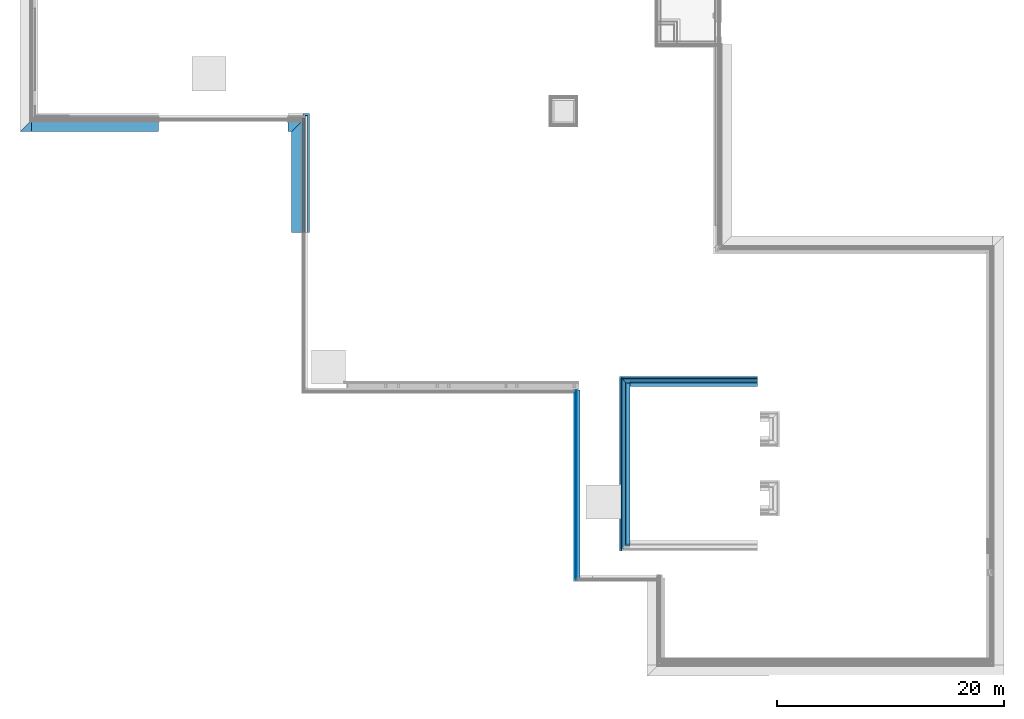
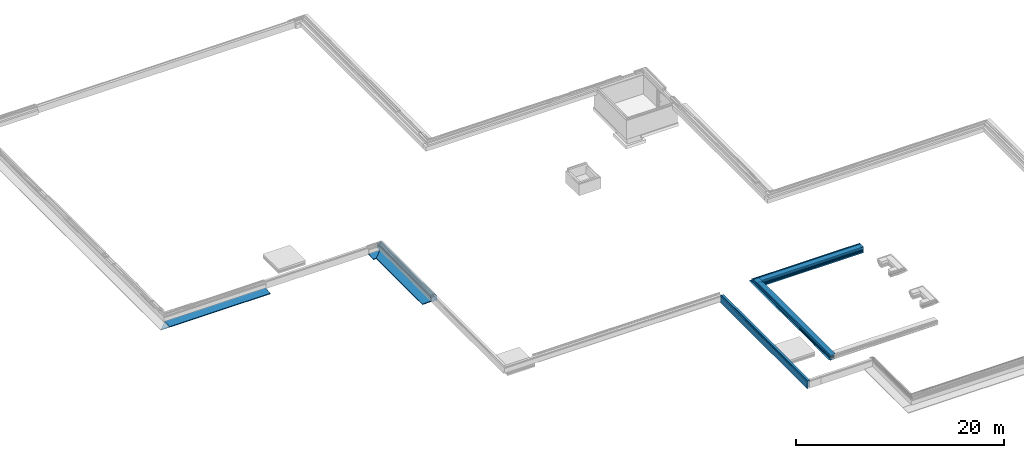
# One storey, part 3 of 17: 30 building element parts, 6 elements without a shape of their own.
"""IFC2X3 building model written with IfcOpenShell, lengths in millimetres."""

from ifc_helpers import new_model, entity, si_unit, converted_unit, derived_unit, money_unit, direction, frame, origin_with_axes, place, context, subcontext, project, spatial, faceted_brep, material, type_object, element, aggregate, save


model = new_model("IFC2X3")

# Units and contexts
model_context = context("Model", 3, precision=0.01, world=origin_with_axes(), true_north=direction((0.0, 1.0)))
body_context = subcontext(model_context, "Body", "Model", "MODEL_VIEW")
ifc_project = project(units=[si_unit("LENGTHUNIT", "METRE", prefix="MILLI"), si_unit("AREAUNIT", "SQUARE_METRE"), si_unit("VOLUMEUNIT", "CUBIC_METRE"), converted_unit("PLANEANGLEUNIT", "DEGREE", entity("IfcPlaneAngleMeasure", 0.0174532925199), si_unit("PLANEANGLEUNIT", "RADIAN"), dimensions=[0, 0, 0, 0, 0, 0, 0]), money_unit("EUR"), converted_unit("TIMEUNIT", "Year", entity("IfcTimeMeasure", 31556926.0), si_unit("TIMEUNIT", "SECOND"), dimensions=[0, 0, 1, 0, 0, 0, 0]), si_unit("MASSUNIT", "GRAM", prefix="KILO"), si_unit("THERMODYNAMICTEMPERATUREUNIT", "DEGREE_CELSIUS"), si_unit("LUMINOUSINTENSITYUNIT", "LUMEN"), si_unit("ENERGYUNIT", "JOULE", prefix="MEGA"), derived_unit("THERMALCONDUCTANCEUNIT", [(si_unit("POWERUNIT", "WATT"), 1), (si_unit("LENGTHUNIT", "METRE"), -1), (si_unit("THERMODYNAMICTEMPERATUREUNIT", "KELVIN"), -1)]), derived_unit("SPECIFICHEATCAPACITYUNIT", [(si_unit("ENERGYUNIT", "JOULE"), 1), (si_unit("MASSUNIT", "GRAM", prefix="KILO"), -1), (si_unit("THERMODYNAMICTEMPERATUREUNIT", "KELVIN"), -1)]), derived_unit("MASSDENSITYUNIT", [(si_unit("MASSUNIT", "GRAM", prefix="KILO"), 1), (si_unit("VOLUMEUNIT", "CUBIC_METRE"), -1)])], contexts=[model_context])

# Site, building, storey
site_placement = place(None, origin_with_axes())
site = spatial("IfcSite", under=ifc_project, at=site_placement, Name="Kolde pst 67a", CompositionType="ELEMENT")
building_placement = place(site_placement, origin_with_axes())
building = spatial("IfcBuilding", under=site, at=building_placement, Name="Riigigümnaasium", CompositionType="ELEMENT")
storey_placement = place(building_placement, frame((0.0, 0.0, -1500.0), z_axis=(0.0, 0.0, 1.0), x_axis=(1.0, 0.0, 0.0)))
storey = spatial("IfcBuildingStorey", under=building, at=storey_placement, Name="Vundament", CompositionType="ELEMENT", Elevation=-1500.0)

# Wall, building element part
wall_type_1 = type_object("IfcWallType", Name="Lintvundament 1602 x 765", PredefinedType="NOTDEFINED")
wall_1_placement = place(storey_placement, frame((40.0563582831, 48039.9808318, 1479.99999851), z_axis=(0.0, 0.0, 1.0), x_axis=(1.0, 0.0, 0.0)))
wall_1 = element("IfcWall", 1, at=wall_1_placement, inside=storey, type_object=wall_type_1, Name="Vundament")
ifc_material_1 = material(Name="_SOOJUSTUS - vahtpolüstüreenplaadid EPS 120 Perimeeter, survetugevus min 120kPa, veeimavus <2%, soojuserijuhtivus λD<0,036 W/(mK)")
building_element_part_1_placement = place(wall_1_placement, origin_with_axes())
building_element_part_1 = element("IfcBuildingElementPart", 2, at=building_element_part_1_placement, material=ifc_material_1, Name="_SOOJUSTUS - vahtpolüstüreenplaadid EPS 120 Perimeeter, survetugevus min 120kPa, veeimavus <2%, soojuserijuhtivus λD<0,036 W/(mK)", context=body_context, shape_type="Brep", body=[
    faceted_brep([(-143.057441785, -203.057444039, -629.93015656), (11068.5385942, -203.057443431, -629.93015656), (11068.5385942, -203.057443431, -729.999997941), (-143.057441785, -203.057444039, -729.999997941), (-143.057441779, -313.057436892, -633.771447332), (11068.5385942, -313.057436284, -633.771447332), (11068.5385943, -1202.46588098, -664.830269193), (11068.5385943, -1198.97593078, -764.769370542), (-1138.97592908, -1198.97593144, -764.769370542), (-143.057441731, -1200.19010513, -729.999997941), (-143.057441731, -1202.46588159, -664.830279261)], [[[0, 1, 2, 3]], [[0, 4, 5, 1]], [[2, 1, 5, 6, 7]], [[7, 8, 3, 2]], [[0, 3, 9, 10, 4]], [[5, 4, 10, 6]], [[10, 9, 8, 7, 6]], [[3, 8, 9]]]),
])
aggregate(wall_1, [building_element_part_1])

# Wall, building element parts
wall_2_placement = place(storey_placement, frame((24040.0027342, 48039.9808308, 1479.99999851), z_axis=(0.0, 0.0, 1.0), x_axis=(0.0, -1.0, 0.0)))
wall_2 = element("IfcWall", 3, at=wall_2_placement, inside=storey, type_object=wall_type_1, Name="Vundament")
ifc_material_2 = material(Name="_KANDETARIND - monoliitne raudbetoon vastavalt EK osale")
building_element_part_2_placement = place(wall_2_placement, origin_with_axes())
building_element_part_2 = element("IfcBuildingElementPart", 4, at=building_element_part_2_placement, material=ifc_material_2, Name="_KANDETARIND - monoliitne raudbetoon vastavalt EK osale", context=body_context, shape_type="Brep", body=[
    faceted_brep([(-399.942551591, 399.942555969, -749.999992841), (-399.942551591, 399.942555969, -249.999997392), (10089.4842046, 399.942555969, -250.0), (10089.4842046, 399.942555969, -750.0), (-399.942551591, 200.0, -249.999997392), (-399.942551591, -200.057444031, -749.999992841), (-399.942551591, -200.057444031, -249.999997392), (-199.999991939, 200.0, -249.999997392), (10089.4842046, 200.0, -250.0), (10089.4842046, -200.057444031, -750.0), (10089.4842046, 200.0, 0.0), (10089.4842046, 0.0, 0.0), (10089.4842046, 0.0, -250.0), (10089.4842046, -200.057444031, -250.0), (-199.999991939, 0.0, -249.999997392), (-199.999991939, 200.0, 3.32716632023e-07), (-199.999991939, 0.0, 3.32716632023e-07)], [[[0, 1, 2, 3]], [[4, 1, 0, 5, 6]], [[4, 7, 8, 2, 1]], [[9, 3, 2, 8, 10, 11, 12, 13]], [[5, 0, 3, 9]], [[6, 5, 9, 13]], [[4, 6, 13, 12, 14, 7]], [[7, 15, 10, 8]], [[15, 16, 11, 10]], [[16, 14, 12, 11]], [[16, 15, 7, 14]]]),
])
ifc_material_3 = material(Name="_SOOJUSTUS - ekstrudeeritud polüstüreenist plaadid XPS 250, survetugevus min 250kPa, soojuserijuhtivus λD<0,036 W/(mK), veeimavus alla 0,2%, näiteks XPS 250 foam SL või samaväärne")
building_element_part_3_placement = place(wall_2_placement, origin_with_axes())
building_element_part_3 = element("IfcBuildingElementPart", 5, at=building_element_part_3_placement, material=ifc_material_3, Name="_SOOJUSTUS - ekstrudeeritud polüstüreenist plaadid XPS 250, survetugevus min 250kPa, soojuserijuhtivus λD<0,036 W/(mK), veeimavus alla 0,2%, näiteks XPS 250 foam SL või samaväärne", context=body_context, shape_type="Brep", body=[
    faceted_brep([(2.99999775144, -3.00000241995, -2.35946218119e-06), (10089.4842046, -3.00000241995, -3.7612034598e-06), (10089.4842046, -3.00000241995, -146.999999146), (2.99999775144, -3.00000241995, -146.999999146), (2.99999775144, -73.0000017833, -2.35946218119e-06), (10089.4842046, -73.0000017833, -3.76120340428e-06), (10089.4842046, -73.0000017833, -146.999999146), (2.99999775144, -73.0000017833, -146.999999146)], [[[0, 1, 2, 3]], [[0, 4, 5, 1]], [[5, 6, 2, 1]], [[2, 6, 7, 3]], [[4, 0, 3, 7]], [[4, 7, 6, 5]]]),
])
building_element_part_4_placement = place(wall_2_placement, origin_with_axes())
building_element_part_4 = element("IfcBuildingElementPart", 6, at=building_element_part_4_placement, material=ifc_material_1, Name="_SOOJUSTUS - vahtpolüstüreenplaadid EPS 120 Perimeeter, survetugevus min 120kPa, veeimavus <2%, soojuserijuhtivus λD<0,036 W/(mK)", context=body_context, shape_type="Brep", body=[
    faceted_brep([(73.0000016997, -73.0000013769, -3.76120343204e-06), (10089.4842046, -73.0000013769, -2.23078100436e-06), (10089.4842046, -73.0000013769, -146.999999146), (73.0000016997, -73.0000013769, -146.999999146), (73.0000016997, -223.000000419, -3.76120343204e-06), (10089.4842046, -223.000000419, -2.23078100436e-06), (10089.4842046, -223.000000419, -146.999999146), (73.0000016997, -223.000000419, -146.999999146)], [[[0, 1, 2, 3]], [[0, 4, 5, 1]], [[6, 2, 1, 5]], [[3, 2, 6, 7]], [[4, 0, 3, 7]], [[4, 7, 6, 5]]]),
])
building_element_part_5_placement = place(wall_2_placement, origin_with_axes())
building_element_part_5 = element("IfcBuildingElementPart", 7, at=building_element_part_5_placement, material=ifc_material_1, Name="_SOOJUSTUS - vahtpolüstüreenplaadid EPS 120 Perimeeter, survetugevus min 120kPa, veeimavus <2%, soojuserijuhtivus λD<0,036 W/(mK)", context=body_context, shape_type="Brep", body=[
    faceted_brep([(2.99999645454, -3.00000241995, -246.999998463), (2.99999645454, -3.00000241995, -146.999999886), (10089.4842046, -3.00000241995, -146.99999851), (10089.4842046, -3.00000241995, -247.000001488), (2.99999645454, -303.057446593, -146.999999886), (2.99999645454, -303.057446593, -246.999998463), (10089.4842046, -303.057446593, -146.99999851), (10089.4842046, -303.057446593, -247.000001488)], [[[0, 1, 2, 3]], [[4, 1, 0, 5]], [[1, 4, 6, 2]], [[3, 2, 6, 7]], [[5, 0, 3, 7]], [[4, 5, 7, 6]]]),
])
building_element_part_6_placement = place(wall_2_placement, origin_with_axes())
building_element_part_6 = element("IfcBuildingElementPart", 8, at=building_element_part_6_placement, material=ifc_material_1, Name="_SOOJUSTUS - vahtpolüstüreenplaadid EPS 120 Perimeeter, survetugevus min 120kPa, veeimavus <2%, soojuserijuhtivus λD<0,036 W/(mK)", context=body_context, shape_type="Brep", body=[
    faceted_brep([(203.05743529, -203.057444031, -629.93015656), (10089.4842046, -203.057444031, -629.93015656), (10089.4842046, -203.057444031, -729.999997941), (203.05743529, -203.057444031, -729.999997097), (203.05743529, -313.057436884, -633.771447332), (10089.4842046, -313.057436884, -633.771447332), (10089.4842046, -1198.97593138, -764.769370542), (10089.4842046, -1202.46588158, -664.830269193), (775.928980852, -775.928427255, -750.000015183), (1198.9759211, -1198.97593138, -764.769370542), (203.05743529, -1200.19010466, -729.999997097), (203.05743529, -1202.46588158, -664.830269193), (775.928980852, -1199.49168939, -750.000015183)], [[[0, 1, 2, 3]], [[0, 4, 5, 1]], [[6, 2, 1, 5, 7]], [[8, 3, 2, 6, 9]], [[0, 3, 10, 11, 4]], [[4, 11, 7, 5]], [[11, 10, 12, 9, 6, 7]], [[10, 3, 8, 9, 12]]]),
])
aggregate(wall_2, [building_element_part_2, building_element_part_3, building_element_part_4, building_element_part_5, building_element_part_6])

wall_type_2 = type_object("IfcWallType", Name="VS-RB-25/3_lintvundament klaasfassaad 433", PredefinedType="NOTDEFINED")
wall_3_placement = place(storey_placement, frame((48079.9854561, 24039.9999727, 729.9), z_axis=(0.0, 0.0, 1.0), x_axis=(-1.14108152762e-05, -0.999999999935, 0.0)))
wall_3 = element("IfcWall", 9, at=wall_3_placement, inside=storey, type_object=wall_type_2, Name="Vundament")
building_element_part_7_placement = place(wall_3_placement, origin_with_axes())
building_element_part_7 = element("IfcBuildingElementPart", 10, at=building_element_part_7_placement, material=ifc_material_2, Name="_KANDETARIND - monoliitne raudbetoon vastavalt EK osale", context=body_context, shape_type="Brep", body=[
    faceted_brep([(16599.9956944, -80.0, 0.0), (0.0, -80.0, 0.0), (0.0, 170.0, 0.0), (16599.9956944, 170.0, 0.0), (16599.9956944, -80.0, 770.0), (0.0, -80.0, 770.0), (0.0, 170.0, 770.0), (16599.9956944, 170.0, 770.0)], [[[0, 1, 2, 3]], [[4, 5, 1, 0]], [[2, 1, 5, 6]], [[3, 2, 6, 7]], [[3, 7, 4, 0]], [[7, 6, 5, 4]]]),
])
ifc_material_4 = material(Name="_HÜDROISOLATSIOON - Bituumenvõõp COMBIFLEX-EL vastavalt TL2 nõuetele")
building_element_part_8_placement = place(wall_3_placement, origin_with_axes())
building_element_part_8 = element("IfcBuildingElementPart", 11, at=building_element_part_8_placement, material=ifc_material_4, Name="_HÜDROISOLATSIOON - Bituumenvõõp COMBIFLEX-EL vastavalt TL2 nõuetele", context=body_context, shape_type="Brep", body=[
    faceted_brep([(16602.9956944, -83.0, 0.0), (0.0, -83.0, 0.0), (0.0, -80.0, 0.0), (16602.9956944, -80.0, 0.0), (16602.9956944, -83.0, 770.0), (0.0, -83.0, 770.0), (0.0, -80.0, 770.0), (16602.9956944, -80.0, 770.0)], [[[0, 1, 2, 3]], [[4, 5, 1, 0]], [[2, 1, 5, 6]], [[3, 2, 6, 7]], [[3, 7, 4, 0]], [[7, 6, 5, 4]]]),
])
building_element_part_9_placement = place(wall_3_placement, origin_with_axes())
building_element_part_9 = element("IfcBuildingElementPart", 12, at=building_element_part_9_placement, material=ifc_material_3, Name="_SOOJUSTUS - ekstrudeeritud polüstüreenist plaadid XPS 250, survetugevus min 250kPa, soojuserijuhtivus λD<0,036 W/(mK), veeimavus alla 0,2%, näiteks XPS 250 foam SL või samaväärne", context=body_context, shape_type="Brep", body=[
    faceted_brep([(16672.9956944, -153.0, 0.0), (0.0, -153.0, 0.0), (0.0, -83.0, 0.0), (16672.9956944, -83.0, 0.0), (16672.9956944, -153.0, 770.0), (0.0, -153.0, 770.0), (0.0, -83.0, 770.0), (16672.9956944, -83.0, 770.0)], [[[0, 1, 2, 3]], [[4, 5, 1, 0]], [[2, 1, 5, 6]], [[3, 2, 6, 7]], [[3, 7, 4, 0]], [[7, 6, 5, 4]]]),
])
building_element_part_10_placement = place(wall_3_placement, origin_with_axes())
building_element_part_10 = element("IfcBuildingElementPart", 13, at=building_element_part_10_placement, material=ifc_material_1, Name="_SOOJUSTUS - vahtpolüstüreenplaadid EPS 120 Perimeeter, survetugevus min 120kPa, veeimavus <2%, soojuserijuhtivus λD<0,036 W/(mK)", context=body_context, shape_type="Brep", body=[
    faceted_brep([(16772.9956944, -253.0, 0.0), (0.0, -253.0, 0.0), (0.0, -153.0, 0.0), (16772.9956944, -153.0, 0.0), (16772.9956944, -253.0, 770.0), (0.0, -253.0, 770.0), (0.0, -153.0, 770.0), (16772.9956944, -153.0, 770.0)], [[[0, 1, 2, 3]], [[4, 5, 1, 0]], [[2, 1, 5, 6]], [[3, 2, 6, 7]], [[3, 7, 4, 0]], [[7, 6, 5, 4]]]),
])
ifc_material_5 = material(Name="_TUULETÕKE - sokli krohv, silikoonvaikkrohv Weber.pas 481 AquaBalance 1mm \"scratch\" viimistlus, toon helehall CL444 (S 3502-Y) * 35, SILS süsteem, või samaväärne")
building_element_part_11_placement = place(wall_3_placement, origin_with_axes())
building_element_part_11 = element("IfcBuildingElementPart", 14, at=building_element_part_11_placement, material=ifc_material_5, Name="_TUULETÕKE - sokli krohv, silikoonvaikkrohv Weber.pas 481 AquaBalance 1mm \"scratch\" viimistlus, toon helehall CL444 (S 3502-Y) * 35, SILS süsteem, või samaväärne", context=body_context, shape_type="Brep", body=[
    faceted_brep([(16782.9956944, -263.0, 0.0), (0.0, -263.0, 0.0), (0.0, -253.0, 0.0), (16782.9956944, -253.0, 0.0), (16782.9956944, -263.0, 770.0), (0.0, -263.0, 770.0), (0.0, -253.0, 770.0), (16782.9956944, -253.0, 770.0)], [[[0, 1, 2, 3]], [[4, 5, 1, 0]], [[2, 1, 5, 6]], [[3, 2, 6, 7]], [[3, 7, 4, 0]], [[7, 6, 5, 4]]]),
])
aggregate(wall_3, [building_element_part_7, building_element_part_8, building_element_part_9, building_element_part_10, building_element_part_11])

wall_type_3 = type_object("IfcWallType", Name="garderoobi plaadipaksendus 916 x 700", PredefinedType="NOTDEFINED")
wall_4_placement = place(storey_placement, frame((52364.9941057, 24645.000127, 1095.0), z_axis=(0.0, 0.0, 1.0), x_axis=(0.0, -1.0, 0.0)))
wall_4 = element("IfcWall", 15, at=wall_4_placement, inside=storey, type_object=wall_type_3, Name="Vundament")
building_element_part_12_placement = place(wall_4_placement, origin_with_axes())
building_element_part_12 = element("IfcBuildingElementPart", 16, at=building_element_part_12_placement, material=ifc_material_2, Name="_KANDETARIND - monoliitne raudbetoon vastavalt EK osale", context=body_context, shape_type="Brep", body=[
    faceted_brep([(14165.0381907, -5.0, 5.0), (14464.9381863, -304.899994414, 304.899995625), (-304.900000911, -304.899994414, 304.899995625), (-5.00000528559, -5.0, 5.0), (14165.0381874, 86.6753466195, 4.99999671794), (14165.0381907, 295.0, 5.0), (14464.9381863, 295.0, 304.899995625), (-304.900000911, 295.0, 304.899995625), (-5.00000528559, 295.0, 5.0), (-5.00000200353, 86.6753466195, 4.99999671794)], [[[0, 1, 2, 3]], [[1, 0, 4, 5, 6]], [[2, 1, 6, 7]], [[3, 2, 7, 8, 9]], [[4, 0, 3, 9]], [[4, 9, 8, 5]], [[6, 5, 8, 7]]]),
])
building_element_part_13_placement = place(wall_4_placement, origin_with_axes())
building_element_part_13 = element("IfcBuildingElementPart", 17, at=building_element_part_13_placement, material=ifc_material_1, Name="_SOOJUSTUS - vahtpolüstüreenplaadid EPS 120 Perimeeter, survetugevus min 120kPa, veeimavus <2%, soojuserijuhtivus λD<0,036 W/(mK)", context=body_context, shape_type="Brep", body=[
    faceted_brep([(14206.3770237, -46.3388389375, -95.1407949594), (14164.9974152, -4.95922640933, 4.95922356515), (-4.95923369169, -4.95256601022, 4.9592272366), (-46.3388382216, -46.3388388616, -95.1407947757), (14206.3770237, 294.993597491, -95.1407949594), (14164.9974152, 294.997848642, 4.95922356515), (14073.3628447, 86.6753466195, 4.99999598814), (86.6753407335, 86.6753466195, 4.99999598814), (-4.9592336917, 294.997848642, 4.95922723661), (-46.3388382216, 294.993597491, -95.1407947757), (86.6753407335, 294.997850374, 4.99999525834), (14073.3628447, 294.997850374, 4.99999525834)], [[[0, 1, 2, 3]], [[1, 0, 4, 5]], [[2, 1, 6, 7]], [[3, 2, 8, 9]], [[0, 3, 9, 4]], [[5, 4, 9, 8, 10, 11]], [[1, 5, 11, 6]], [[7, 6, 11, 10]], [[10, 8, 2, 7]]]),
])
building_element_part_14_placement = place(wall_4_placement, origin_with_axes())
building_element_part_14 = element("IfcBuildingElementPart", 18, at=building_element_part_14_placement, material=ifc_material_1, Name="_SOOJUSTUS - vahtpolüstüreenplaadid EPS 120 Perimeeter, survetugevus min 120kPa, veeimavus <2%, soojuserijuhtivus λD<0,036 W/(mK)", context=body_context, shape_type="Brep", body=[
    faceted_brep([(-87.7845202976, -87.7674414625, -195.199621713), (-87.7845202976, 294.993583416, -195.199621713), (-87.8015695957, 294.993583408, -195.240793), (-87.8015695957, -87.7845121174, -195.240793), (-87.7674476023, 294.993583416, -195.199621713), (-87.7674476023, -87.7674427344, -195.199621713), (-46.3219932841, 294.993602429, -95.2407931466), (14206.3601792, 294.993602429, -95.2407931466), (14247.805632, 294.993583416, -195.199621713), (14247.8227032, 294.993583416, -195.199615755), (14247.839755, 294.993583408, -195.240793), (14247.839755, -87.7845121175, -195.240793), (14247.8227032, -87.7674396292, -195.199615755), (14247.805632, -87.7674427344, -195.199621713), (14206.3601792, -46.3219876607, -95.2407931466), (-46.3219932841, -46.3219876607, -95.2407931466)], [[[0, 1, 2, 3]], [[4, 1, 0, 5]], [[4, 6, 7, 8, 9, 10, 2, 1]], [[3, 2, 10, 11]], [[5, 0, 3, 11, 12, 13, 14, 15]], [[6, 4, 5, 15]], [[6, 15, 14, 7]], [[8, 7, 14, 13]], [[9, 8, 13, 12]], [[9, 12, 11, 10]]]),
])
ifc_material_6 = material(Name="_TÄIDE - tasandus-/tugevduskiht, pinnasesse tambitud killustik E=80MPa, kiilutud fr 4/16")
building_element_part_15_placement = place(wall_4_placement, origin_with_axes())
building_element_part_15 = element("IfcBuildingElementPart", 19, at=building_element_part_15_placement, material=ifc_material_6, Name="_TÄIDE - tasandus-/tugevduskiht, pinnasesse tambitud killustik E=80MPa, kiilutud fr 4/16", context=body_context, shape_type="Brep", body=[
    faceted_brep([(14268.5503057, -108.512246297, -245.240789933), (14268.5333771, -108.495192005, -245.199619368), (-108.49518553, -108.495191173, -245.19961736), (-108.512120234, -108.512246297, -245.240789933), (14268.5503057, 294.993573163, -245.240789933), (14268.5333771, 294.993573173, -245.199619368), (-87.7845178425, -87.7845113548, -195.240793), (14247.8227032, -87.7845116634, -195.240793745), (-108.495187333, 294.993573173, -245.199621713), (-108.512120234, 294.993573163, -245.240789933), (-87.7845178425, 294.993584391, -195.240793), (14247.8227032, 294.993584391, -195.240793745)], [[[0, 1, 2, 3]], [[1, 0, 4, 5]], [[6, 2, 1, 7]], [[3, 2, 8, 9]], [[0, 3, 9, 4]], [[5, 4, 9, 8, 10, 11]], [[1, 5, 11, 7]], [[2, 6, 10, 8]], [[6, 7, 11, 10]]]),
])
ifc_material_7 = material(Name="_TÄIDE - tasandus-/tugevduskiht, pinnasesse tambitud killustik E=80MPa, fr 16/32")
building_element_part_16_placement = place(wall_4_placement, origin_with_axes())
building_element_part_16 = element("IfcBuildingElementPart", 20, at=building_element_part_16_placement, material=ifc_material_7, Name="_TÄIDE - tasandus-/tugevduskiht, pinnasesse tambitud killustik E=80MPa, fr 16/32", context=body_context, shape_type="Brep", body=[
    faceted_brep([(-170.189294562, -170.189294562, -395.24078319), (-170.189294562, 294.99354324, -395.24078319), (14330.22748, 294.99354324, -395.24078319), (14330.22748, -170.189294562, -395.24078319), (-108.512123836, 294.993570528, -245.240798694), (-108.512123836, -108.512240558, -245.240798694), (14268.5503057, 294.993570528, -245.240789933), (14268.5503057, -108.512240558, -245.240789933)], [[[0, 1, 2, 3]], [[4, 1, 0, 5]], [[1, 4, 6, 2]], [[2, 6, 7, 3]], [[5, 0, 3, 7]], [[4, 5, 7, 6]]]),
])
building_element_part_17_placement = place(wall_4_placement, origin_with_axes())
building_element_part_17 = element("IfcBuildingElementPart", 21, at=building_element_part_17_placement, material=ifc_material_1, Name="_SOOJUSTUS - vahtpolüstüreenplaadid EPS 120 Perimeeter, survetugevus min 120kPa, veeimavus <2%, soojuserijuhtivus λD<0,036 W/(mK)", context=body_context, shape_type="Brep", body=[
    faceted_brep([(14606.3542663, -446.316090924, 304.900001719), (14306.5194983, -146.481314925, 4.95922709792), (14306.5194958, -4.95922979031, 4.95922450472), (14306.5602526, -5.00000054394, 4.99999525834), (14506.2896593, -204.800007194, 204.800001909), (14606.3542663, -304.900000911, 304.900001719), (-446.316080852, -446.316090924, 304.900001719), (-146.522067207, -146.522068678, 4.99999525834), (-46.3669050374, -46.3616066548, -95.1958725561), (14206.4050905, -46.3616066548, -95.1958725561), (14206.4601681, -46.4166672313, -95.1407949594), (-5.00000171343, -146.522068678, 4.99999525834), (86.6753407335, -146.522068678, 4.99999525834), (-4.9592336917, -146.481315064, 4.95922723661), (14206.4601681, -46.3388389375, -95.1407949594), (-4.9592336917, -4.9592325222, 4.9592272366), (86.6753407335, -5.00000054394, 4.99999525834), (-5.00000171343, -5.00000054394, 4.99999525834), (-146.522067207, -5.00000054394, 4.99999525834), (-346.251457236, -204.800007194, 204.800001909), (-446.316080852, -304.900000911, 304.900001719), (-146.481310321, -4.95922979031, 4.95922450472), (-46.421980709, -46.3388397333, -95.1407968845)], [[[0, 1, 2, 3, 4, 5]], [[1, 0, 6, 7, 8, 9, 10], [11, 12, 13]], [[1, 10, 14, 2]], [[3, 2, 15, 16]], [[5, 4, 3, 16, 17, 18, 19, 20]], [[0, 5, 20, 6]], [[7, 6, 20, 19, 18]], [[8, 7, 18, 21, 22]], [[14, 9, 8, 22]], [[10, 9, 14]], [[12, 11, 17, 16]], [[13, 12, 16, 15]], [[11, 13, 15, 17]], [[14, 22, 21, 15, 2]], [[17, 15, 21, 18]]]),
])
building_element_part_18_placement = place(wall_4_placement, origin_with_axes())
building_element_part_18 = element("IfcBuildingElementPart", 22, at=building_element_part_18_placement, material=ifc_material_1, Name="_SOOJUSTUS - vahtpolüstüreenplaadid EPS 120 Perimeeter, survetugevus min 120kPa, veeimavus <2%, soojuserijuhtivus λD<0,036 W/(mK)", context=body_context, shape_type="Brep", body=[
    faceted_brep([(8907.01916954, -487.004292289, 204.800001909), (8897.01916954, -487.004292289, 204.800001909), (8897.01916954, -477.004292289, 204.800001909), (12033.0191695, -477.004292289, 204.800001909), (12033.0191695, -487.004292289, 204.800001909), (11933.0191695, -487.004292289, 204.800001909), (11933.0191695, -487.784133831, 204.800001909), (14647.8223307, -487.784133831, 204.800001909), (14647.8223307, -346.362777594, 204.800001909), (-487.784143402, -346.362777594, 204.800001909), (-487.784143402, -487.784133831, 204.800001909), (8907.01916954, -487.784133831, 204.800001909), (8907.01916954, -487.004292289, 204.020160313), (8897.01916954, -487.004292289, 204.020160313), (8897.01916954, -477.004292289, 194.020159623), (12033.0191695, -477.004292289, 194.020159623), (12033.0191695, -487.004292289, 204.020160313), (11933.0191695, -487.004292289, 204.020160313), (-387.784141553, -387.784135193, 104.799996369), (14547.8223251, -387.784135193, 104.799996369), (14247.8227002, -87.7845121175, -195.199621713), (14347.7815256, -46.3802099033, -95.2407937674), (14347.8264419, -46.366900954, -95.1958773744), (-187.784512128, -46.3631558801, -95.1996217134), (-87.7845147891, -87.784511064, -195.19961917)], [[[0, 1, 2, 3, 4, 5, 6, 7, 8, 9, 10, 11]], [[1, 0, 12, 13]], [[2, 1, 13, 14]], [[3, 2, 14, 15]], [[4, 3, 15, 16]], [[17, 5, 4, 16]], [[5, 17, 6]], [[13, 12, 11, 10, 18, 19, 7, 6, 17, 16, 15, 14]], [[8, 7, 19, 20, 21, 22]], [[23, 9, 8, 22]], [[23, 24, 18, 10, 9]], [[12, 0, 11]], [[19, 18, 24, 20]], [[23, 22, 21, 20, 24]]]),
])
building_element_part_19_placement = place(wall_4_placement, origin_with_axes())
building_element_part_19 = element("IfcBuildingElementPart", 23, at=building_element_part_19_placement, material=ifc_material_6, Name="_TÄIDE - tasandus-/tugevduskiht, pinnasesse tambitud killustik E=80MPa, kiilutud fr 4/16", context=body_context, shape_type="Brep", body=[
    faceted_brep([(14568.5329921, -408.494810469, 54.8000019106), (14618.5329866, -458.494810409, 104.799996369), (-458.494800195, -458.494810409, 104.799996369), (-408.494807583, -408.494810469, 54.8000019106), (14268.5333771, -108.495187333, -245.199621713), (14318.5333748, -87.7845158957, -195.199621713), (14618.5329866, -387.784135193, 104.799996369), (-458.494800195, -387.784135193, 104.799996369), (-108.495191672, -108.495185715, -245.199617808), (-158.495189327, -87.7845158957, -195.199621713), (-87.8015738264, -158.454015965, -195.240793), (-87.7845178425, -158.454015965, -195.240793), (-108.495191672, -108.495185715, -245.199617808), (14268.5333771, -108.495187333, -245.199621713), (14247.8227032, -158.45401522, -195.240793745), (14247.8397592, -158.454015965, -195.240793), (-87.7845178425, -87.8015695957, -195.240793), (-87.8015738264, -87.8015695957, -195.240793), (14247.8397592, -87.8015695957, -195.240793), (14247.8227032, -87.801569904, -195.240793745)], [[[0, 1, 2, 3]], [[0, 4, 5, 6, 1]], [[1, 6, 7, 2]], [[8, 3, 2, 7, 9]], [[4, 0, 3, 8, 10, 11, 12, 13, 14, 15]], [[13, 12, 16, 17, 8, 9, 5, 4, 18, 19]], [[6, 5, 9, 7]], [[10, 8, 17]], [[11, 10, 17, 16]], [[12, 11, 16]], [[14, 13, 19]], [[15, 14, 19, 18]], [[4, 15, 18]]]),
])
building_element_part_20_placement = place(wall_4_placement, origin_with_axes())
building_element_part_20 = element("IfcBuildingElementPart", 24, at=building_element_part_20_placement, material=ifc_material_7, Name="_TÄIDE - tasandus-/tugevduskiht, pinnasesse tambitud killustik E=80MPa, fr 16/32", context=body_context, shape_type="Brep", body=[
    faceted_brep([(8907.01916954, -487.004292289, 54.8000019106), (8897.01916954, -487.004292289, 54.8000019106), (8897.01916954, -477.004292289, 54.8000019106), (12033.0191695, -477.004292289, 54.8000019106), (12033.0191695, -487.004292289, 54.8000019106), (11933.0191695, -487.004292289, 54.8000019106), (11933.0191695, -587.004292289, 54.8000019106), (11930.0191695, -587.004292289, 54.8000019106), (11930.0191695, -590.004292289, 54.8000019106), (11770.0191695, -590.004292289, 54.8000019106), (11770.0191695, -620.626846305, 54.8000019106), (14780.6650262, -620.626846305, 54.8000019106), (14780.6650262, -408.494810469, 54.8000019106), (-620.626840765, -408.494810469, 54.8000019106), (-620.626840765, -620.626846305, 54.8000019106), (9010.01916954, -620.626846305, 54.8000019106), (9010.01916954, -590.004292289, 54.8000019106), (9007.01916954, -590.004292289, 54.8000019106), (9007.01916954, -587.004292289, 54.8000019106), (8907.01916954, -587.004292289, 54.8000019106), (8907.01916954, -487.004292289, -78.822552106), (8897.01916954, -487.004292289, -78.822552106), (8897.01916954, -477.004292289, -88.822552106), (12033.0191695, -477.004292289, -88.822552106), (12033.0191695, -487.004292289, -78.822552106), (11933.0191695, -487.004292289, -78.822552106), (11933.0191695, -587.004292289, 21.177447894), (11930.0191695, -587.004292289, 21.177447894), (11930.0191695, -590.004292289, 24.177447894), (11770.0191695, -590.004292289, 24.177447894), (8907.01916954, -587.004292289, 21.177447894), (9007.01916954, -587.004292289, 21.177447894), (9007.01916954, -590.004292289, 24.177447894), (9010.01916954, -590.004292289, 24.177447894), (-170.304914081, -170.304905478, -395.521941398), (14330.3430829, -170.304905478, -395.521941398), (14330.6242411, -170.189294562, -395.24078319), (14480.6654049, -108.495191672, -245.199619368), (-320.627230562, -108.495191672, -245.199619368), (-170.586072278, -170.189294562, -395.24078319)], [[[0, 1, 2, 3, 4, 5, 6, 7, 8, 9, 10, 11, 12, 13, 14, 15, 16, 17, 18, 19]], [[1, 0, 20, 21]], [[2, 1, 21, 22]], [[3, 2, 22, 23]], [[4, 3, 23, 24]], [[25, 5, 4, 24]], [[5, 25, 26, 6]], [[27, 7, 6, 26]], [[7, 27, 28, 8]], [[29, 9, 8, 28]], [[9, 29, 10]], [[21, 20, 30, 31, 32, 33, 15, 14, 34, 35, 11, 10, 29, 28, 27, 26, 25, 24, 23, 22]], [[35, 36, 37, 12, 11]], [[37, 38, 13, 12]], [[14, 13, 38, 39, 34]], [[33, 16, 15]], [[17, 16, 33, 32]], [[31, 18, 17, 32]], [[19, 18, 31, 30]], [[20, 0, 19, 30]], [[35, 34, 39, 36]], [[36, 39, 38, 37]]]),
])
aggregate(wall_4, [building_element_part_12, building_element_part_13, building_element_part_14, building_element_part_15, building_element_part_16, building_element_part_17, building_element_part_18, building_element_part_19, building_element_part_20])

# Wall, building element part
wall_5_placement = place(storey_placement, frame((22528.6213609, 48039.9808309, 1479.99999851), z_axis=(0.0, 0.0, 1.0), x_axis=(1.0, 0.0, 0.0)))
wall_5 = element("IfcWall", 25, at=wall_5_placement, inside=storey, type_object=wall_type_1, Name="Vundament")
building_element_part_21_placement = place(wall_5_placement, origin_with_axes())
building_element_part_21 = element("IfcBuildingElementPart", 26, at=building_element_part_21_placement, material=ifc_material_1, Name="_SOOJUSTUS - vahtpolüstüreenplaadid EPS 120 Perimeeter, survetugevus min 120kPa, veeimavus <2%, soojuserijuhtivus λD<0,036 W/(mK)", context=body_context, shape_type="Brep", body=[
    faceted_brep([(1308.32392925, -203.057443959, -629.93015656), (1.12336806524e-08, -203.057444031, -629.93015656), (1.73159264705e-08, -313.057436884, -633.771447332), (1198.3239364, -313.057436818, -633.771447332), (1198.3239364, -203.057443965, -633.771447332), (308.915491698, -203.057444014, -664.830269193), (311.191268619, -203.057444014, -729.999995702), (1.12336806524e-08, -203.057444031, -729.999997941), (6.65139054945e-08, -1202.46588158, -664.830269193), (6.63220589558e-08, -1198.97593138, -764.769370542), (308.915491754, -1202.46588156, -664.830269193), (312.405441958, -1198.97593136, -764.769370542)], [[[0, 1, 2, 3]], [[0, 4, 5, 6, 7, 1]], [[8, 2, 1, 7, 9]], [[2, 8, 10, 3]], [[0, 3, 4]], [[3, 10, 5, 4]], [[10, 11, 6, 5]], [[7, 6, 11, 9]], [[9, 11, 10, 8]]]),
])
aggregate(wall_5, [building_element_part_21])

# Wall, building element parts
wall_6_placement = place(storey_placement, frame((52364.9941057, 24645.000127, 1095.0), z_axis=(0.0, 0.0, 1.0), x_axis=(1.0, 0.0, 0.0)))
wall_6 = element("IfcWall", 27, at=wall_6_placement, inside=storey, type_object=wall_type_3, Name="Vundament")
building_element_part_22_placement = place(wall_6_placement, origin_with_axes())
building_element_part_22 = element("IfcBuildingElementPart", 28, at=building_element_part_22_placement, material=ifc_material_7, Name="_TÄIDE - tasandus-/tugevduskiht, pinnasesse tambitud killustik E=80MPa, fr 16/32", context=body_context, shape_type="Brep", body=[
    faceted_brep([(-408.494810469, 620.626844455, 54.799999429), (-408.494810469, 408.494808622, 54.799999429), (11564.9092901, 408.494810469, 54.799999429), (11564.9092901, 620.626846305, 54.799999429), (-108.495191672, 108.495191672, -245.199619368), (-108.495191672, 320.6272265, -245.199619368), (11564.9092901, 108.495191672, -245.199619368), (11564.9092901, 170.189294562, -395.24078319), (11564.9092901, 170.304905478, -395.521941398), (-170.304897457, 170.304905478, -395.521941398), (-170.189294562, 170.586063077, -395.24078319), (-170.189294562, 170.189294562, -395.24078319)], [[[0, 1, 2, 3]], [[4, 1, 0, 5]], [[1, 4, 6, 2]], [[7, 8, 3, 2, 6]], [[5, 0, 3, 8, 9, 10]], [[11, 4, 5, 10]], [[4, 11, 7, 6]], [[9, 8, 7, 11]], [[10, 9, 11]]]),
])
building_element_part_23_placement = place(wall_6_placement, origin_with_axes())
building_element_part_23 = element("IfcBuildingElementPart", 29, at=building_element_part_23_placement, material=ifc_material_6, Name="_TÄIDE - tasandus-/tugevduskiht, pinnasesse tambitud killustik E=80MPa, kiilutud fr 4/16", context=body_context, shape_type="Brep", body=[
    faceted_brep([(-337.78413326, 408.494808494, 54.799999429), (-387.784132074, 458.494810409, 104.799998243), (11564.9092901, 458.494810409, 104.800001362), (11564.9092901, 408.494810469, 54.799999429), (-87.7845147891, 158.495189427, -195.199619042), (-87.7845147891, 87.7845147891, -195.199619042), (-387.784135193, 387.784132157, 104.800001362), (11564.9092901, 387.784135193, 104.800001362), (11564.9092901, 87.7845147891, -195.199619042), (11564.9092901, 108.495187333, -245.199621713), (-108.495191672, 108.495187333, -245.199621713), (-87.7845177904, 158.454014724, -195.240793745), (-87.8015737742, 158.454015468, -195.240793), (-87.8015737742, 87.8015695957, -195.240793), (-87.7845177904, 87.801569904, -195.240793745)], [[[0, 1, 2, 3]], [[0, 4, 5, 6, 1]], [[1, 6, 7, 2]], [[8, 9, 3, 2, 7]], [[4, 0, 3, 9, 10, 11, 12]], [[13, 5, 4, 12]], [[6, 5, 8, 7]], [[14, 10, 9, 8, 5, 13]], [[10, 14, 11]], [[14, 13, 12, 11]]]),
])
building_element_part_24_placement = place(wall_6_placement, origin_with_axes())
building_element_part_24 = element("IfcBuildingElementPart", 30, at=building_element_part_24_placement, material=ifc_material_1, Name="_SOOJUSTUS - vahtpolüstüreenplaadid EPS 120 Perimeeter, survetugevus min 120kPa, veeimavus <2%, soojuserijuhtivus λD<0,036 W/(mK)", context=body_context, shape_type="Brep", body=[
    faceted_brep([(-87.7845147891, 87.7845121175, -195.199621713), (-46.3631558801, 46.3631558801, -95.1996217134), (-46.3631558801, 187.784512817, -95.1996217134), (11564.9092901, 87.7845121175, -195.199621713), (11564.9092901, 46.3631558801, -95.1996217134), (-346.362777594, 346.362776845, 204.8), (-346.362777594, 487.784133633, 204.8), (-246.362778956, 387.78413844, 104.800001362), (11564.9092901, 387.784135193, 104.800001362), (11564.9092901, 487.784133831, 204.8), (11564.9092901, 346.362777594, 204.8)], [[[0, 1, 2]], [[3, 4, 1, 0]], [[1, 5, 6, 7, 2]], [[2, 7, 8, 3, 0]], [[4, 3, 8, 9, 10]], [[5, 1, 4, 10]], [[6, 5, 10, 9]], [[7, 6, 9, 8]]]),
])
building_element_part_25_placement = place(wall_6_placement, origin_with_axes())
building_element_part_25 = element("IfcBuildingElementPart", 31, at=building_element_part_25_placement, material=ifc_material_1, Name="_SOOJUSTUS - vahtpolüstüreenplaadid EPS 120 Perimeeter, survetugevus min 120kPa, veeimavus <2%, soojuserijuhtivus λD<0,036 W/(mK)", context=body_context, shape_type="Brep", body=[
    faceted_brep([(-5.00000235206, 5.00000235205, 4.99999706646), (-304.900000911, 304.899998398, 304.899995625), (-304.900000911, 446.31608874, 304.899995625), (-5.00000235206, 146.522069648, 4.99999706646), (11564.9092901, 5.00000235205, 4.99999706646), (11564.9092901, 304.900000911, 304.899995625), (11564.9092901, 446.316090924, 304.899995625), (-46.3669050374, 46.3616066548, -95.1958725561), (-46.3388389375, 46.4166656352, -95.1407949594), (-4.95922979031, 146.481310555, 4.95922356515), (11564.9092901, 46.3616066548, -95.1958725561), (-4.95922979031, 4.95923017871, 4.95922356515), (11564.9092901, 4.95922979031, 4.95922450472), (11564.9092901, 46.3388389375, -95.1407949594), (-46.3388389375, 46.3388389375, -95.1407949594)], [[[0, 1, 2, 3]], [[1, 0, 4, 5]], [[2, 1, 5, 6]], [[7, 8, 9, 3, 2, 6, 10]], [[11, 0, 3, 9]], [[12, 4, 0, 11]], [[12, 13, 10, 6, 5, 4]], [[8, 7, 14]], [[14, 11, 9, 8]], [[14, 7, 10, 13]], [[13, 12, 11, 14]]]),
])
building_element_part_26_placement = place(wall_6_placement, origin_with_axes())
building_element_part_26 = element("IfcBuildingElementPart", 32, at=building_element_part_26_placement, material=ifc_material_7, Name="_TÄIDE - tasandus-/tugevduskiht, pinnasesse tambitud killustik E=80MPa, fr 16/32", context=body_context, shape_type="Brep", body=[
    faceted_brep([(294.99354324, -294.99354324, -395.24078319), (294.99354324, 170.189294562, -395.24078319), (11564.9092901, 170.189294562, -395.24078319), (11564.9092901, -294.99354324, -395.24078319), (294.993570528, 108.512240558, -245.24078505), (294.993570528, -294.993570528, -245.24078505), (11564.9092901, 108.512240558, -245.240798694), (11564.9092901, -294.993570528, -245.24078505)], [[[0, 1, 2, 3]], [[4, 1, 0, 5]], [[1, 4, 6, 2]], [[7, 3, 2, 6]], [[5, 0, 3, 7]], [[4, 5, 7, 6]]]),
])
building_element_part_27_placement = place(wall_6_placement, origin_with_axes())
building_element_part_27 = element("IfcBuildingElementPart", 33, at=building_element_part_27_placement, material=ifc_material_2, Name="_KANDETARIND - monoliitne raudbetoon vastavalt EK osale", context=body_context, shape_type="Brep", body=[
    faceted_brep([(295.0, -295.0, 304.9), (295.0, -295.0, 5.0), (11564.9092901, -295.0, 5.0), (11564.9092901, -295.0, 304.9), (295.0, 304.899999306, 304.9), (295.0, 5.0, 5.0), (295.0, -86.6753466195, 4.99999671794), (11564.9092901, -86.6753466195, 4.99999671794), (11564.9092901, 5.0, 5.0), (11564.9092901, 304.9, 304.9)], [[[0, 1, 2, 3]], [[1, 0, 4, 5, 6]], [[2, 1, 6, 7]], [[2, 7, 8, 9, 3]], [[4, 0, 3, 9]], [[5, 4, 9, 8]], [[6, 5, 8, 7]]]),
])
building_element_part_28_placement = place(wall_6_placement, origin_with_axes())
building_element_part_28 = element("IfcBuildingElementPart", 34, at=building_element_part_28_placement, material=ifc_material_6, Name="_TÄIDE - tasandus-/tugevduskiht, pinnasesse tambitud killustik E=80MPa, kiilutud fr 4/16", context=body_context, shape_type="Brep", body=[
    faceted_brep([(294.993584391, -294.993584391, -195.240793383), (294.993573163, -294.993573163, -245.240789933), (11564.9092901, -294.993573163, -245.240789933), (11564.9092901, -294.993584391, -195.240793), (294.993584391, 87.7845115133, -195.240793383), (294.993573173, 108.495192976, -245.199621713), (294.993573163, 108.512246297, -245.240789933), (11564.9092901, 108.512246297, -245.240789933), (11564.9092901, 108.495191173, -245.19961736), (11564.9092901, 87.7845113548, -195.240793)], [[[0, 1, 2, 3]], [[1, 0, 4, 5, 6]], [[1, 6, 7, 2]], [[3, 2, 7, 8, 9]], [[0, 3, 9, 4]], [[5, 4, 9, 8]], [[6, 5, 8, 7]]]),
])
building_element_part_29_placement = place(wall_6_placement, origin_with_axes())
building_element_part_29 = element("IfcBuildingElementPart", 35, at=building_element_part_29_placement, material=ifc_material_1, Name="_SOOJUSTUS - vahtpolüstüreenplaadid EPS 120 Perimeeter, survetugevus min 120kPa, veeimavus <2%, soojuserijuhtivus λD<0,036 W/(mK)", context=body_context, shape_type="Brep", body=[
    faceted_brep([(294.993583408, -294.993583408, -195.240789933), (294.993602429, -294.993602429, -95.2407899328), (294.993602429, 46.3219876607, -95.2407899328), (294.993583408, 87.7845121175, -195.240789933), (11564.9092901, -294.993583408, -195.240789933), (11564.9092901, -294.993602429, -95.2407899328), (11564.9092901, 46.3219876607, -95.2407899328), (11564.9092901, 87.7845121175, -195.240789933)], [[[0, 1, 2, 3]], [[1, 0, 4, 5]], [[2, 1, 5, 6]], [[2, 6, 7, 3]], [[4, 0, 3, 7]], [[4, 7, 6, 5]]]),
    faceted_brep([(-87.7845177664, 87.7674396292, -195.199615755), (-87.7674465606, 87.7674427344, -195.199621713), (-87.7845121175, 87.7845121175, -195.240789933), (-87.8015695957, 87.7845121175, -195.240793), (-87.7845177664, -294.993583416, -195.199615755), (-87.7674465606, -294.993583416, -195.199621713), (-87.7845121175, -294.993583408, -195.240789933), (-87.8015695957, -294.993583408, -195.240793)], [[[0, 1, 2, 3]], [[1, 0, 4, 5]], [[2, 1, 5, 6]], [[2, 6, 7, 3]], [[4, 0, 3, 7]], [[5, 4, 7, 6]]]),
])
building_element_part_30_placement = place(wall_6_placement, origin_with_axes())
building_element_part_30 = element("IfcBuildingElementPart", 36, at=building_element_part_30_placement, material=ifc_material_1, Name="_SOOJUSTUS - vahtpolüstüreenplaadid EPS 120 Perimeeter, survetugevus min 120kPa, veeimavus <2%, soojuserijuhtivus λD<0,036 W/(mK)", context=body_context, shape_type="Brep", body=[
    faceted_brep([(294.997850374, -294.997850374, 4.99999671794), (294.993597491, -294.993597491, -95.1407949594), (11564.9092901, -294.993597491, -95.1407949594), (11564.9092901, -294.997850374, 4.99999671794), (294.997850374, -86.6753466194, 4.99999671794), (294.997848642, 4.95922611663, 4.95922427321), (294.993597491, 46.3388389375, -95.1407949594), (11564.9092901, 46.3388389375, -95.1407949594), (11564.9092901, 4.95922611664, 4.95922427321), (11564.9092901, -86.6753466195, 4.99999671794)], [[[0, 1, 2, 3]], [[1, 0, 4, 5, 6]], [[1, 6, 7, 2]], [[3, 2, 7, 8, 9]], [[4, 0, 3, 9]], [[5, 4, 9, 8]], [[6, 5, 8, 7]]]),
])
aggregate(wall_6, [building_element_part_22, building_element_part_23, building_element_part_24, building_element_part_25, building_element_part_26, building_element_part_27, building_element_part_28, building_element_part_29, building_element_part_30])

save(model, "model.ifc")
